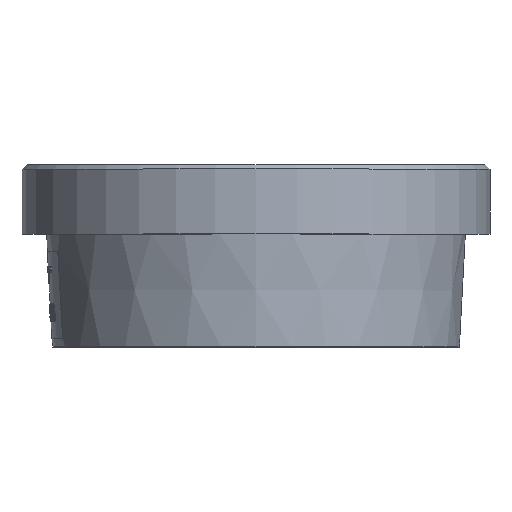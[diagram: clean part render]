
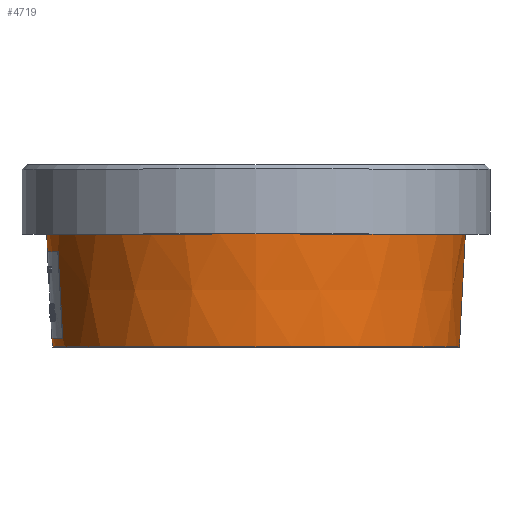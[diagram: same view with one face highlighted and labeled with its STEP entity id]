
A CAD part, top view. The second image highlights one B-rep face of the part: STEP entity #4719.
In plain terms, the highlighted conical face has half-angle 3 degrees and reference radius 23.469 mm.
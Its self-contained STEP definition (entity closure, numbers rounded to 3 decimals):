
#31 = CARTESIAN_POINT ( 'NONE',  ( -22.293, 1., 7.5 ) ) ;
#69 = DIRECTION ( 'NONE',  ( 0.052, 0.999, 0. ) ) ;
#77 = CARTESIAN_POINT ( 'NONE',  ( 0., 11., 0. ) ) ;
#80 = DIRECTION ( 'NONE',  ( 0., 1., 0. ) ) ;
#87 = DIRECTION ( 'NONE',  ( 0., -1., 0. ) ) ;
#88 = DIRECTION ( 'NONE',  ( 1., 0., 0. ) ) ;
#89 = CARTESIAN_POINT ( 'NONE',  ( 23.469, 0., 0. ) ) ;
#90 = CARTESIAN_POINT ( 'NONE',  ( 0., 0., 0. ) ) ;
#93 = DIRECTION ( 'NONE',  ( -1., 0., 0. ) ) ;
#117 = DIRECTION ( 'NONE',  ( 1., 0., 0. ) ) ;
#121 = DIRECTION ( 'NONE',  ( 0., -1., 0. ) ) ;
#143 = CARTESIAN_POINT ( 'NONE',  ( 0., 13., 0. ) ) ;
#238 = CARTESIAN_POINT ( 'NONE',  ( -24.15, 13., 0. ) ) ;
#749 = CARTESIAN_POINT ( 'NONE',  ( -22.662, 7.667, 7.5 ) ) ;
#764 = CARTESIAN_POINT ( 'NONE',  ( -22.293, 1., 7.5 ) ) ;
#768 = CARTESIAN_POINT ( 'NONE',  ( -22.846, 11., 7.5 ) ) ;
#781 = CARTESIAN_POINT ( 'NONE',  ( -22.478, 4.333, 7.5 ) ) ;
#796 = CARTESIAN_POINT ( 'NONE',  ( -23.469, 0., 0. ) ) ;
#805 = DIRECTION ( 'NONE',  ( -0.052, 0.999, 0. ) ) ;
#924 = CARTESIAN_POINT ( 'NONE',  ( 0., 1., 0. ) ) ;
#949 = DIRECTION ( 'NONE',  ( 1., 0., 0. ) ) ;
#954 = DIRECTION ( 'NONE',  ( 0., -1., 0. ) ) ;
#1001 = B_SPLINE_CURVE_WITH_KNOTS ( 'NONE', 3,
 ( #768, #749, #781, #764 ),
 .UNSPECIFIED., .F., .F.,
 ( 4, 4 ),
 ( 0.04, 0.05 ),
 .UNSPECIFIED. ) ;
#1246 = VECTOR ( 'NONE', #805, 1000. ) ;
#1261 = LINE ( 'NONE', #796, #1246 ) ;
#1289 = CIRCLE ( 'NONE', #7529, 23.521 ) ;
#1857 = CARTESIAN_POINT ( 'NONE',  ( 24.15, 13., 0. ) ) ;
#1866 = CARTESIAN_POINT ( 'NONE',  ( 23.469, 0., 0. ) ) ;
#1898 = CARTESIAN_POINT ( 'NONE',  ( -23.521, 1., 0. ) ) ;
#1900 = CARTESIAN_POINT ( 'NONE',  ( -23.469, 0., 0. ) ) ;
#1949 = CARTESIAN_POINT ( 'NONE',  ( -22.846, 11., 7.5 ) ) ;
#1977 = CARTESIAN_POINT ( 'NONE',  ( -24.045, 11., 0. ) ) ;
#4009 = EDGE_LOOP ( 'NONE', ( #6402, #6394, #6389, #6380, #6369, #6399, #6354, #6391 ) ) ;
#4719 = ADVANCED_FACE ( 'NONE', ( #7057 ), #7050, .T. ) ;
#4866 = EDGE_CURVE ( 'NONE', #5387, #5264, #7165, .T. ) ;
#4898 = EDGE_CURVE ( 'NONE', #5336, #5329, #7151, .T. ) ;
#4902 = EDGE_CURVE ( 'NONE', #5336, #5337, #7196, .T. ) ;
#4903 = EDGE_CURVE ( 'NONE', #5387, #5351, #6708, .T. ) ;
#4907 = EDGE_CURVE ( 'NONE', #5329, #5264, #6697, .T. ) ;
#5069 = EDGE_CURVE ( 'NONE', #5351, #5256, #1001, .T. ) ;
#5079 = EDGE_CURVE ( 'NONE', #5337, #5283, #1261, .T. ) ;
#5113 = EDGE_CURVE ( 'NONE', #5256, #5283, #1289, .T. ) ;
#5256 = VERTEX_POINT ( 'NONE', #31 ) ;
#5264 = VERTEX_POINT ( 'NONE', #238 ) ;
#5283 = VERTEX_POINT ( 'NONE', #1898 ) ;
#5329 = VERTEX_POINT ( 'NONE', #1857 ) ;
#5336 = VERTEX_POINT ( 'NONE', #1866 ) ;
#5337 = VERTEX_POINT ( 'NONE', #1900 ) ;
#5351 = VERTEX_POINT ( 'NONE', #1949 ) ;
#5387 = VERTEX_POINT ( 'NONE', #1977 ) ;
#6354 = ORIENTED_EDGE ( 'NONE', *, *, #5113, .T. ) ;
#6369 = ORIENTED_EDGE ( 'NONE', *, *, #4903, .T. ) ;
#6380 = ORIENTED_EDGE ( 'NONE', *, *, #4866, .F. ) ;
#6389 = ORIENTED_EDGE ( 'NONE', *, *, #4907, .T. ) ;
#6391 = ORIENTED_EDGE ( 'NONE', *, *, #5079, .F. ) ;
#6394 = ORIENTED_EDGE ( 'NONE', *, *, #4898, .T. ) ;
#6399 = ORIENTED_EDGE ( 'NONE', *, *, #5069, .T. ) ;
#6402 = ORIENTED_EDGE ( 'NONE', *, *, #4902, .F. ) ;
#6697 = CIRCLE ( 'NONE', #7382, 24.15 ) ;
#6708 = CIRCLE ( 'NONE', #7365, 24.045 ) ;
#7050 = CONICAL_SURFACE ( 'NONE', #7290, 23.469, 0.052 ) ;
#7057 = FACE_OUTER_BOUND ( 'NONE', #4009, .T. ) ;
#7147 = VECTOR ( 'NONE', #9598, 1000. ) ;
#7151 = LINE ( 'NONE', #89, #7160 ) ;
#7160 = VECTOR ( 'NONE', #69, 1000. ) ;
#7165 = LINE ( 'NONE', #9634, #7147 ) ;
#7196 = CIRCLE ( 'NONE', #7360, 23.469 ) ;
#7290 = AXIS2_PLACEMENT_3D ( 'NONE', #9118, #9125, #9129 ) ;
#7360 = AXIS2_PLACEMENT_3D ( 'NONE', #90, #87, #88 ) ;
#7365 = AXIS2_PLACEMENT_3D ( 'NONE', #77, #80, #93 ) ;
#7382 = AXIS2_PLACEMENT_3D ( 'NONE', #143, #121, #117 ) ;
#7529 = AXIS2_PLACEMENT_3D ( 'NONE', #924, #954, #949 ) ;
#9118 = CARTESIAN_POINT ( 'NONE',  ( 0., 0., 0. ) ) ;
#9125 = DIRECTION ( 'NONE',  ( 0., 1., 0. ) ) ;
#9129 = DIRECTION ( 'NONE',  ( -1., 0., 0. ) ) ;
#9598 = DIRECTION ( 'NONE',  ( -0.052, 0.999, 0. ) ) ;
#9634 = CARTESIAN_POINT ( 'NONE',  ( -23.469, 0., 0. ) ) ;
